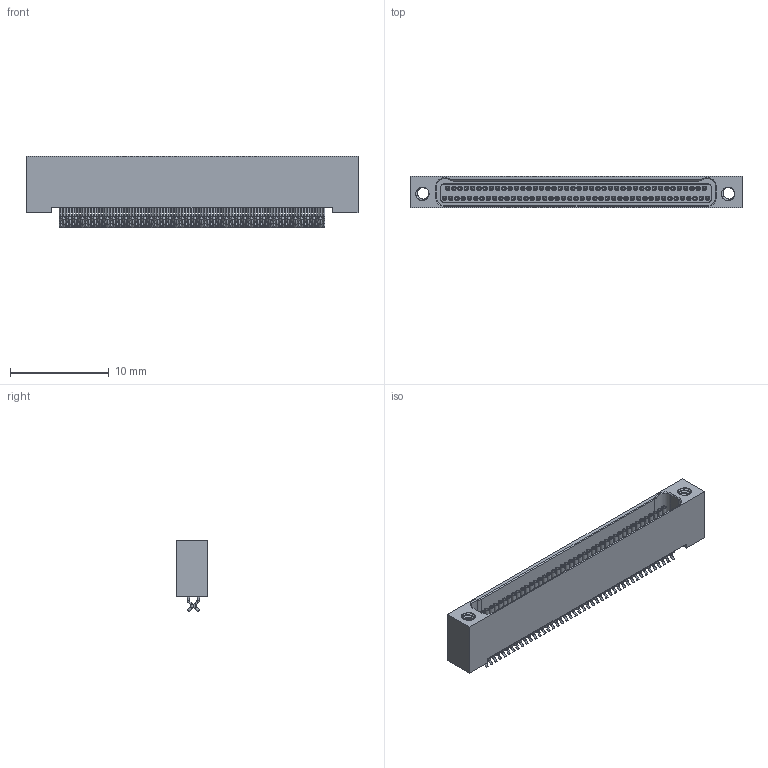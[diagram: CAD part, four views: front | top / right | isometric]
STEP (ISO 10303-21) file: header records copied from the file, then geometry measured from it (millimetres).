
FILE_DESCRIPTION (( 'STEP AP214' ), '1' );
FILE_NAME ('A29300-085 REV B.STEP', '2011-07-13T19:46:17', ( 'IT' ), ( '' ), 'SwSTEP 2.0', 'SolidWorks 2010', '' );
FILE_SCHEMA (( 'AUTOMOTIVE_DESIGN' ));
Length unit declared in the file: inch
Products named in the file (1): A29300-085
Bounding box: 33.66 x 3.19 x 7.23 mm (x, y, z)
Volume: 362.7 mm3; surface area: 1655.9 mm2
Topology: 1 solids, 4 shells, 1850 faces, 4109 edges, 2367 vertices
Faces by surface type: cylinder 946, torus 340, plane 326, cone 184, bspline 54
Entity records: 58921 total; most frequent: CARTESIAN_POINT 17167, DIRECTION 9365, ORIENTED_EDGE 7878, EDGE_CURVE 3939, AXIS2_PLACEMENT_3D 3903, VERTEX_POINT 2367, EDGE_LOOP 2124, CIRCLE 2106
